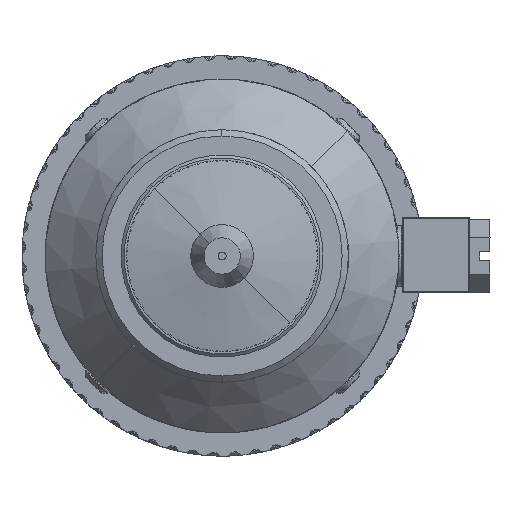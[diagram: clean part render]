
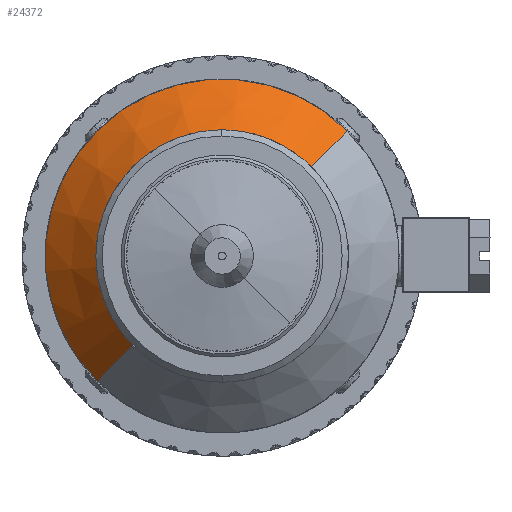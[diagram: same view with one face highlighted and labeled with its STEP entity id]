
A CAD part, front view. The second image highlights one B-rep face of the part: STEP entity #24372.
In plain terms, the highlighted conical face has half-angle 45 degrees and reference radius 15.875 mm.
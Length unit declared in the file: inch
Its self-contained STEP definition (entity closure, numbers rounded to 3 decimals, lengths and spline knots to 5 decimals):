
#75 = DIRECTION ( 'NONE',  ( 0.707, 0., 0.707 ) ) ;
#3393 = CARTESIAN_POINT ( 'NONE',  ( -0.36592, -0.94811, 0.54058 ) ) ;
#4185 = ORIENTED_EDGE ( 'NONE', *, *, #71618, .F. ) ;
#4301 = VERTEX_POINT ( 'NONE', #3393 ) ;
#4330 = FACE_OUTER_BOUND ( 'NONE', #41938, .T. ) ;
#6263 = CARTESIAN_POINT ( 'NONE',  ( 0.07603, -0.94811, 0.98252 ) ) ;
#7106 = CARTESIAN_POINT ( 'NONE',  ( 0.07603, -0.69811, 0.98252 ) ) ;
#8403 = LINE ( 'NONE', #68919, #60840 ) ;
#11845 = EDGE_CURVE ( 'NONE', #4301, #46099, #76481, .T. ) ;
#12403 = CONICAL_SURFACE ( 'NONE', #35194, 0.625, 0.785 ) ;
#18911 = CIRCLE ( 'NONE', #73871, 0.875 ) ;
#20804 = CARTESIAN_POINT ( 'NONE',  ( -0.36592, -0.94811, 0.54058 ) ) ;
#24372 = ADVANCED_FACE ( 'NONE', ( #4330 ), #12403, .T. ) ;
#24560 = DIRECTION ( 'NONE',  ( 0., -1., 0. ) ) ;
#25847 = VECTOR ( 'NONE', #33217, 39.37008 ) ;
#26791 = DIRECTION ( 'NONE',  ( 0., -1., 0. ) ) ;
#29000 = CIRCLE ( 'NONE', #34910, 0.625 ) ;
#33217 = DIRECTION ( 'NONE',  ( -0.5, 0.707, -0.5 ) ) ;
#34910 = AXIS2_PLACEMENT_3D ( 'NONE', #6263, #24560, #57304 ) ;
#35194 = AXIS2_PLACEMENT_3D ( 'NONE', #53899, #41212, #47663 ) ;
#41212 = DIRECTION ( 'NONE',  ( 0., 1., 0. ) ) ;
#41938 = EDGE_LOOP ( 'NONE', ( #4185, #54899, #49899, #63033 ) ) ;
#45481 = CARTESIAN_POINT ( 'NONE',  ( 0.51797, -0.94811, 1.42446 ) ) ;
#46099 = VERTEX_POINT ( 'NONE', #60403 ) ;
#47585 = CARTESIAN_POINT ( 'NONE',  ( 0.69474, -0.69811, 1.60124 ) ) ;
#47663 = DIRECTION ( 'NONE',  ( -0.707, 0., -0.707 ) ) ;
#49279 = EDGE_CURVE ( 'NONE', #73368, #68514, #8403, .T. ) ;
#49899 = ORIENTED_EDGE ( 'NONE', *, *, #71675, .T. ) ;
#53899 = CARTESIAN_POINT ( 'NONE',  ( 0.07603, -0.94811, 0.98252 ) ) ;
#54899 = ORIENTED_EDGE ( 'NONE', *, *, #49279, .T. ) ;
#57304 = DIRECTION ( 'NONE',  ( 0.707, 0., 0.707 ) ) ;
#60403 = CARTESIAN_POINT ( 'NONE',  ( -0.54269, -0.69811, 0.3638 ) ) ;
#60840 = VECTOR ( 'NONE', #62995, 39.37008 ) ;
#62995 = DIRECTION ( 'NONE',  ( 0.5, 0.707, 0.5 ) ) ;
#63033 = ORIENTED_EDGE ( 'NONE', *, *, #11845, .F. ) ;
#68514 = VERTEX_POINT ( 'NONE', #47585 ) ;
#68919 = CARTESIAN_POINT ( 'NONE',  ( 0.51797, -0.94811, 1.42446 ) ) ;
#71618 = EDGE_CURVE ( 'NONE', #73368, #4301, #29000, .T. ) ;
#71675 = EDGE_CURVE ( 'NONE', #68514, #46099, #18911, .T. ) ;
#73368 = VERTEX_POINT ( 'NONE', #45481 ) ;
#73871 = AXIS2_PLACEMENT_3D ( 'NONE', #7106, #26791, #75 ) ;
#76481 = LINE ( 'NONE', #20804, #25847 ) ;
